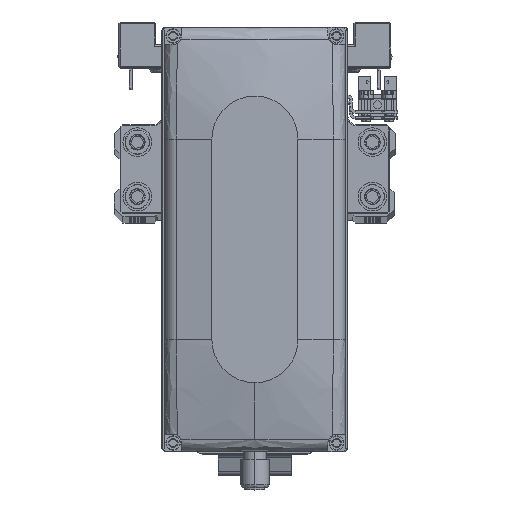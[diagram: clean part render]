
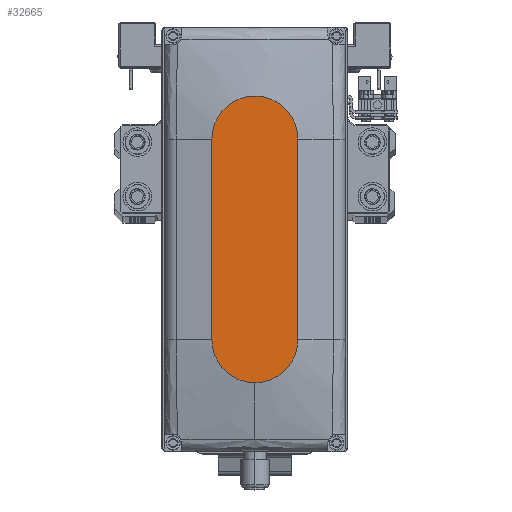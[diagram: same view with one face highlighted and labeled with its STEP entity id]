
A CAD part, top view. The second image highlights one B-rep face of the part: STEP entity #32665.
In plain terms, the highlighted planar face has unit normal (0, 0, 1).
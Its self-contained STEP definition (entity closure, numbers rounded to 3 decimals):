
#225 = VERTEX_POINT ( 'NONE', #12786 ) ;
#1261 = CARTESIAN_POINT ( 'NONE',  ( -35., -15., 35. ) ) ;
#2649 = CARTESIAN_POINT ( 'NONE',  ( 0., 0., 35. ) ) ;
#3021 = ORIENTED_EDGE ( 'NONE', *, *, #6488, .T. ) ;
#3438 = AXIS2_PLACEMENT_3D ( 'NONE', #27906, #41892, #10442 ) ;
#4303 = VERTEX_POINT ( 'NONE', #1261 ) ;
#6488 = EDGE_CURVE ( 'NONE', #14886, #23195, #15534, .T. ) ;
#8164 = DIRECTION ( 'NONE',  ( 0., 0., 1. ) ) ;
#9985 = CARTESIAN_POINT ( 'NONE',  ( -35., 15., 35. ) ) ;
#10442 = DIRECTION ( 'NONE',  ( 1., 0., 0. ) ) ;
#10534 = ORIENTED_EDGE ( 'NONE', *, *, #12963, .T. ) ;
#11244 = LINE ( 'NONE', #25261, #25585 ) ;
#11642 = VERTEX_POINT ( 'NONE', #16876 ) ;
#12268 = ORIENTED_EDGE ( 'NONE', *, *, #21442, .T. ) ;
#12786 = CARTESIAN_POINT ( 'NONE',  ( -35., 15., 35. ) ) ;
#12963 = EDGE_CURVE ( 'NONE', #11642, #225, #41429, .T. ) ;
#13059 = CARTESIAN_POINT ( 'NONE',  ( 35., 0., 35. ) ) ;
#14886 = VERTEX_POINT ( 'NONE', #36517 ) ;
#15534 = CIRCLE ( 'NONE', #41211, 15. ) ;
#15537 = CIRCLE ( 'NONE', #41214, 15. ) ;
#16658 = DIRECTION ( 'NONE',  ( 0., 0., 1. ) ) ;
#16876 = CARTESIAN_POINT ( 'NONE',  ( 35., 15., 35. ) ) ;
#18457 = EDGE_CURVE ( 'NONE', #4303, #14886, #11244, .T. ) ;
#19968 = VECTOR ( 'NONE', #24014, 1000. ) ;
#20105 = FACE_OUTER_BOUND ( 'NONE', #26733, .T. ) ;
#21442 = EDGE_CURVE ( 'NONE', #23195, #11642, #15537, .T. ) ;
#22191 = DIRECTION ( 'NONE',  ( 1., 0., 0. ) ) ;
#22950 = ORIENTED_EDGE ( 'NONE', *, *, #43146, .T. ) ;
#23195 = VERTEX_POINT ( 'NONE', #38307 ) ;
#23239 = CIRCLE ( 'NONE', #3438, 15. ) ;
#24014 = DIRECTION ( 'NONE',  ( -1., 0., 0. ) ) ;
#25261 = CARTESIAN_POINT ( 'NONE',  ( -35., -15., 35. ) ) ;
#25360 = ORIENTED_EDGE ( 'NONE', *, *, #18457, .T. ) ;
#25585 = VECTOR ( 'NONE', #39248, 1000. ) ;
#26733 = EDGE_LOOP ( 'NONE', ( #10534, #22950, #25360, #3021, #12268 ) ) ;
#27088 = DIRECTION ( 'NONE',  ( 0., 0., 1. ) ) ;
#27906 = CARTESIAN_POINT ( 'NONE',  ( -35., 0., 35. ) ) ;
#30667 = DIRECTION ( 'NONE',  ( 1., 0., 0. ) ) ;
#32665 = ADVANCED_FACE ( 'NONE', ( #20105 ), #34101, .T. ) ;
#33460 = AXIS2_PLACEMENT_3D ( 'NONE', #2649, #16658, #30667 ) ;
#34101 = PLANE ( 'NONE',  #33460 ) ;
#36517 = CARTESIAN_POINT ( 'NONE',  ( 35., -15., 35. ) ) ;
#38307 = CARTESIAN_POINT ( 'NONE',  ( 50., 0., 35. ) ) ;
#39248 = DIRECTION ( 'NONE',  ( 1., 0., 0. ) ) ;
#39608 = CARTESIAN_POINT ( 'NONE',  ( 35., 0., 35. ) ) ;
#41072 = DIRECTION ( 'NONE',  ( 1., 0., 0. ) ) ;
#41211 = AXIS2_PLACEMENT_3D ( 'NONE', #13059, #27088, #41072 ) ;
#41214 = AXIS2_PLACEMENT_3D ( 'NONE', #39608, #8164, #22191 ) ;
#41429 = LINE ( 'NONE', #9985, #19968 ) ;
#41892 = DIRECTION ( 'NONE',  ( 0., 0., 1. ) ) ;
#43146 = EDGE_CURVE ( 'NONE', #225, #4303, #23239, .T. ) ;
